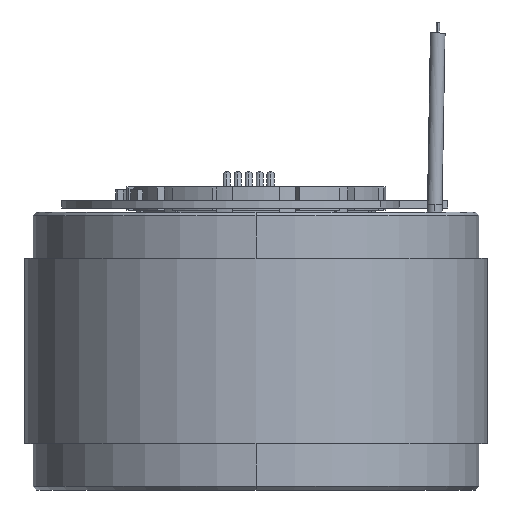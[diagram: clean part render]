
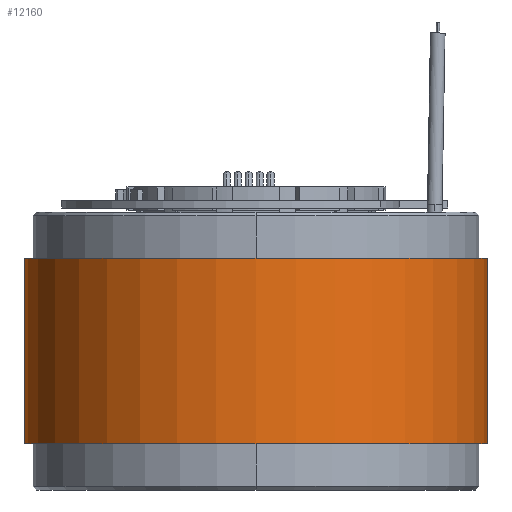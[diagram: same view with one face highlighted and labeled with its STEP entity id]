
A CAD part, left-side view. The second image highlights one B-rep face of the part: STEP entity #12160.
In plain terms, the highlighted cylindrical face has radius 63.5 mm (diameter 127 mm), a partial arc.
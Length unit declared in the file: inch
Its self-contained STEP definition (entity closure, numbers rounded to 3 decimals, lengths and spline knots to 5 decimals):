
#346=CARTESIAN_POINT('',(0.,0.,2.));
#347=DIRECTION('',(0.,0.,-1.));
#348=DIRECTION('',(0.,-1.,0.));
#349=AXIS2_PLACEMENT_3D('',#346,#347,#348);
#366=DIRECTION('',(0.,0.,1.));
#367=VECTOR('',#366,2.);
#368=CARTESIAN_POINT('',(0.,-2.5,0.));
#369=LINE('',#368,#367);
#370=CARTESIAN_POINT('',(0.,0.,0.));
#371=DIRECTION('',(0.,0.,-1.));
#372=DIRECTION('',(0.,-1.,0.));
#373=AXIS2_PLACEMENT_3D('',#370,#371,#372);
#390=DIRECTION('',(0.,0.,1.));
#391=VECTOR('',#390,2.);
#392=CARTESIAN_POINT('',(0.,2.5,0.));
#393=LINE('',#392,#391);
#9187=CARTESIAN_POINT('',(0.,-2.5,0.));
#9188=CARTESIAN_POINT('',(0.,2.5,0.));
#9189=VERTEX_POINT('',#9187);
#9190=VERTEX_POINT('',#9188);
#9191=CARTESIAN_POINT('',(0.,-2.5,2.));
#9192=CARTESIAN_POINT('',(0.,2.5,2.));
#9193=VERTEX_POINT('',#9191);
#9194=VERTEX_POINT('',#9192);
#12146=CARTESIAN_POINT('',(0.,0.,0.));
#12147=DIRECTION('',(0.,0.,-1.));
#12148=DIRECTION('',(0.,-1.,0.));
#12149=AXIS2_PLACEMENT_3D('',#12146,#12147,#12148);
#12150=CYLINDRICAL_SURFACE('',#12149,2.5);
#12152=ORIENTED_EDGE('',*,*,#12151,.T.);
#12154=ORIENTED_EDGE('',*,*,#12153,.T.);
#12155=ORIENTED_EDGE('',*,*,#12134,.F.);
#12157=ORIENTED_EDGE('',*,*,#12156,.F.);
#12158=EDGE_LOOP('',(#12152,#12154,#12155,#12157));
#12159=FACE_OUTER_BOUND('',#12158,.F.);
#12160=ADVANCED_FACE('',(#12159),#12150,.T.);
#350=CIRCLE('',#349,2.5);
#374=CIRCLE('',#373,2.5);
#12134=EDGE_CURVE('',#9193,#9194,#350,.T.);
#12151=EDGE_CURVE('',#9189,#9190,#374,.T.);
#12153=EDGE_CURVE('',#9190,#9194,#393,.T.);
#12156=EDGE_CURVE('',#9189,#9193,#369,.T.);
